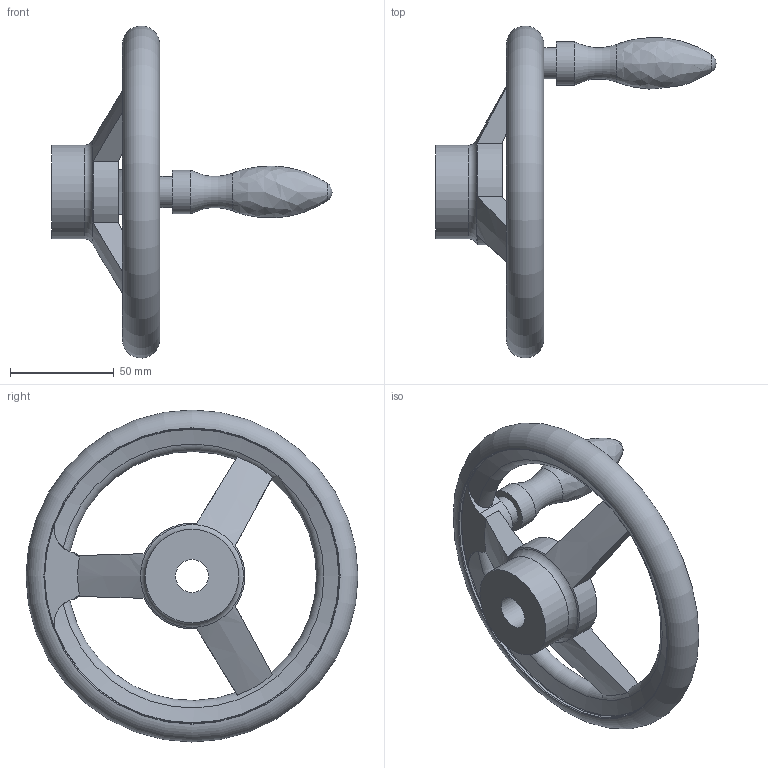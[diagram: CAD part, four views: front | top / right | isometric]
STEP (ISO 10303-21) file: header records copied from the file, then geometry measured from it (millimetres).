
FILE_DESCRIPTION( ( 'STEP AP203' ), '1' );
FILE_NAME( 'C:/Temp/Ganter_Step_05_03_2020/data/1_3/gn_950_1/gn_950_1_b/gn_950_1_b_d/Handwheel GN 950.1-GG-160-B16-D.stp', '2020-03-05T10:32:33', ( 'License CC BY-ND 4.0' ), ( 'CADENAS' ), ' ', 'PARTsolutions', ' ' );
FILE_SCHEMA( ( 'CONFIG_CONTROL_DESIGN' ) );
Length unit declared in the file: millimetre
Products named in the file (1): _Handwheel GN 950.1-GG-160-B16-D
Bounding box: 135 x 159.97 x 159.97 mm (x, y, z)
Volume: 206746 mm3; surface area: 47971 mm2
Topology: 1 solids, 1 shells, 41 faces, 114 edges, 72 vertices
Faces by surface type: cylinder 13, plane 11, torus 11, cone 4, bspline 1, sphere 1
Full cylindrical faces by diameter (mm): 15 x1, 16 x1, 21 x1, 45 x2, 142 x2
Entity records: 1531 total; most frequent: CARTESIAN_POINT 563, DIRECTION 184, ORIENTED_EDGE 178, EDGE_CURVE 89, AXIS2_PLACEMENT_3D 87, VERTEX_POINT 68, EDGE_LOOP 65, FACE_OUTER_BOUND 57
